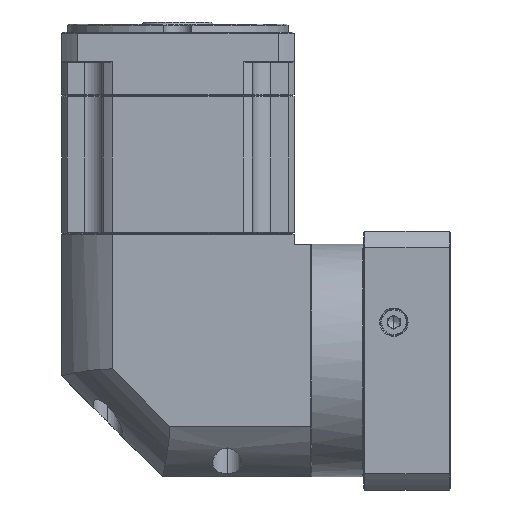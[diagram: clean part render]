
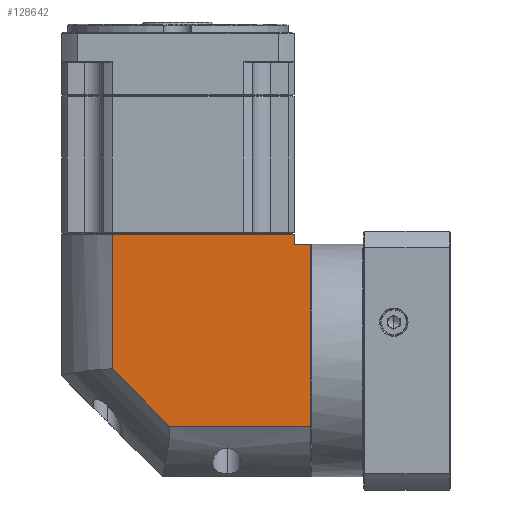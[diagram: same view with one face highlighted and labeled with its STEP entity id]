
A CAD part, left-side view. The second image highlights one B-rep face of the part: STEP entity #128642.
In plain terms, the highlighted planar face has unit normal (-1, 0, 0).
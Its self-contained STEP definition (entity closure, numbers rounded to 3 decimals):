
#8542 = CARTESIAN_POINT ( 'NONE',  ( -270.575, -119.771, -64.986 ) ) ;
#8830 = DIRECTION ( 'NONE',  ( 0., 1., 0. ) ) ;
#10730 = CARTESIAN_POINT ( 'NONE',  ( -270.575, -111.371, 24.913 ) ) ;
#11280 = CARTESIAN_POINT ( 'NONE',  ( -270.575, 3.629, 36.413 ) ) ;
#11622 = DIRECTION ( 'NONE',  ( 0., 0., 1. ) ) ;
#11678 = AXIS2_PLACEMENT_3D ( 'NONE', #11280, #101962, #24320 ) ;
#11942 = EDGE_CURVE ( 'NONE', #131142, #64751, #54108, .T. ) ;
#18746 = CARTESIAN_POINT ( 'NONE',  ( -270.575, -21.471, -36.648 ) ) ;
#19927 = CARTESIAN_POINT ( 'NONE',  ( -270.575, -21.471, 29.913 ) ) ;
#24320 = DIRECTION ( 'NONE',  ( 0., 1., 0. ) ) ;
#24671 = CARTESIAN_POINT ( 'NONE',  ( -270.575, -111.371, -90.087 ) ) ;
#28099 = DIRECTION ( 'NONE',  ( 0., 0., -1. ) ) ;
#28687 = FACE_OUTER_BOUND ( 'NONE', #34261, .T. ) ;
#30171 = ORIENTED_EDGE ( 'NONE', *, *, #54110, .F. ) ;
#31061 = VECTOR ( 'NONE', #8830, 1000. ) ;
#31172 = ORIENTED_EDGE ( 'NONE', *, *, #161707, .F. ) ;
#34261 = EDGE_LOOP ( 'NONE', ( #31172, #30171, #99185, #46809, #106625, #45287, #53189 ) ) ;
#35571 = VECTOR ( 'NONE', #160723, 1000. ) ;
#36853 = PLANE ( 'NONE',  #11678 ) ;
#37451 = CARTESIAN_POINT ( 'NONE',  ( -270.575, 3.629, 29.913 ) ) ;
#39735 = LINE ( 'NONE', #147697, #35571 ) ;
#41037 = LINE ( 'NONE', #131331, #140411 ) ;
#44396 = DIRECTION ( 'NONE',  ( 0., 0.707, 0.707 ) ) ;
#44512 = VERTEX_POINT ( 'NONE', #18746 ) ;
#45287 = ORIENTED_EDGE ( 'NONE', *, *, #11942, .T. ) ;
#46809 = ORIENTED_EDGE ( 'NONE', *, *, #61731, .F. ) ;
#50485 = VECTOR ( 'NONE', #44396, 1000. ) ;
#51071 = VECTOR ( 'NONE', #127610, 1000. ) ;
#53189 = ORIENTED_EDGE ( 'NONE', *, *, #89194, .F. ) ;
#54108 = LINE ( 'NONE', #24671, #153398 ) ;
#54110 = EDGE_CURVE ( 'NONE', #75979, #44512, #84907, .T. ) ;
#55232 = LINE ( 'NONE', #37451, #51071 ) ;
#60617 = CARTESIAN_POINT ( 'NONE',  ( -270.575, -111.371, 29.913 ) ) ;
#61731 = EDGE_CURVE ( 'NONE', #157607, #74740, #41037, .T. ) ;
#64751 = VERTEX_POINT ( 'NONE', #60617 ) ;
#73641 = CARTESIAN_POINT ( 'NONE',  ( -270.575, -111.371, 24.913 ) ) ;
#74740 = VERTEX_POINT ( 'NONE', #8542 ) ;
#75979 = VERTEX_POINT ( 'NONE', #110541 ) ;
#84907 = LINE ( 'NONE', #135042, #50485 ) ;
#86562 = CARTESIAN_POINT ( 'NONE',  ( -270.575, 3.629, -64.986 ) ) ;
#87890 = CARTESIAN_POINT ( 'NONE',  ( -270.575, -119.771, 24.913 ) ) ;
#89194 = EDGE_CURVE ( 'NONE', #136890, #64751, #55232, .T. ) ;
#92946 = VECTOR ( 'NONE', #115115, 1000. ) ;
#97248 = EDGE_CURVE ( 'NONE', #157607, #131142, #161962, .T. ) ;
#99185 = ORIENTED_EDGE ( 'NONE', *, *, #163895, .F. ) ;
#101962 = DIRECTION ( 'NONE',  ( 1., 0., 0. ) ) ;
#106625 = ORIENTED_EDGE ( 'NONE', *, *, #97248, .T. ) ;
#110541 = CARTESIAN_POINT ( 'NONE',  ( -270.575, -49.81, -64.986 ) ) ;
#115115 = DIRECTION ( 'NONE',  ( 0., 1., 0. ) ) ;
#127610 = DIRECTION ( 'NONE',  ( 0., -1., 0. ) ) ;
#128642 = ADVANCED_FACE ( 'NONE', ( #28687 ), #36853, .F. ) ;
#130533 = LINE ( 'NONE', #86562, #31061 ) ;
#131142 = VERTEX_POINT ( 'NONE', #73641 ) ;
#131331 = CARTESIAN_POINT ( 'NONE',  ( -270.575, -119.771, 36.413 ) ) ;
#135042 = CARTESIAN_POINT ( 'NONE',  ( -270.575, -49.81, -64.986 ) ) ;
#136890 = VERTEX_POINT ( 'NONE', #19927 ) ;
#140411 = VECTOR ( 'NONE', #28099, 1000. ) ;
#147697 = CARTESIAN_POINT ( 'NONE',  ( -270.575, -21.471, 36.413 ) ) ;
#153398 = VECTOR ( 'NONE', #11622, 1000. ) ;
#157607 = VERTEX_POINT ( 'NONE', #87890 ) ;
#160723 = DIRECTION ( 'NONE',  ( 0., 0., 1. ) ) ;
#161707 = EDGE_CURVE ( 'NONE', #44512, #136890, #39735, .T. ) ;
#161962 = LINE ( 'NONE', #10730, #92946 ) ;
#163895 = EDGE_CURVE ( 'NONE', #74740, #75979, #130533, .T. ) ;
